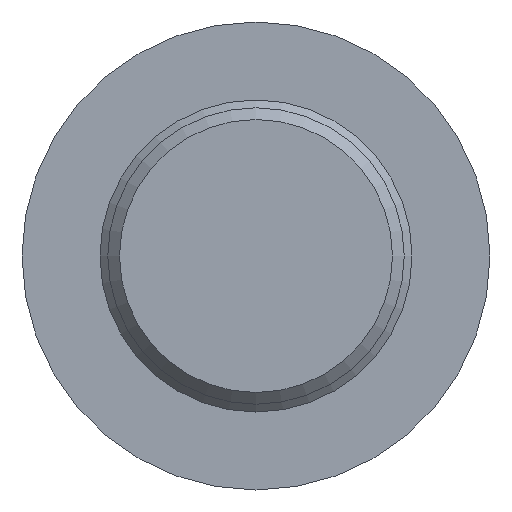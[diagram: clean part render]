
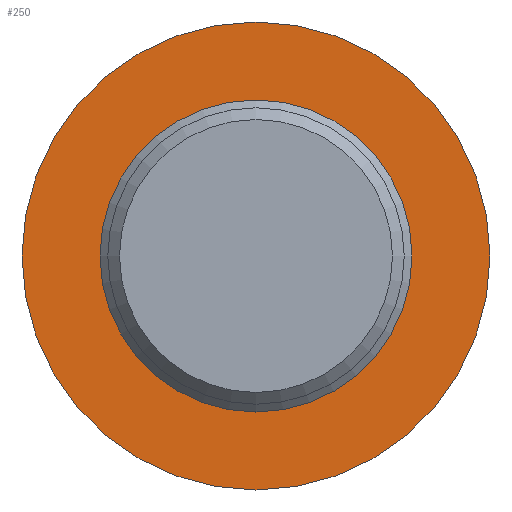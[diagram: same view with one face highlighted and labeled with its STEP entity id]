
A CAD part, front view. The second image highlights one B-rep face of the part: STEP entity #250.
In plain terms, the highlighted planar face has unit normal (0, -1, 0).
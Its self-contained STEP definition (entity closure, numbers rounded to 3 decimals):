
#17=FACE_BOUND('',#61,.T.);
#30=PLANE('',#303);
#43=FACE_OUTER_BOUND('',#60,.T.);
#60=EDGE_LOOP('',(#214,#215));
#61=EDGE_LOOP('',(#216,#217));
#100=CIRCLE('',#301,4.);
#101=CIRCLE('',#302,4.);
#102=CIRCLE('',#304,6.);
#103=CIRCLE('',#305,6.);
#126=VERTEX_POINT('',#456);
#127=VERTEX_POINT('',#457);
#128=VERTEX_POINT('',#462);
#129=VERTEX_POINT('',#463);
#157=EDGE_CURVE('',#126,#127,#100,.T.);
#158=EDGE_CURVE('',#127,#126,#101,.T.);
#160=EDGE_CURVE('',#128,#129,#102,.T.);
#161=EDGE_CURVE('',#129,#128,#103,.T.);
#214=ORIENTED_EDGE('',*,*,#160,.F.);
#215=ORIENTED_EDGE('',*,*,#161,.F.);
#216=ORIENTED_EDGE('',*,*,#157,.T.);
#217=ORIENTED_EDGE('',*,*,#158,.T.);
#250=ADVANCED_FACE('',(#43,#17),#30,.T.);
#301=AXIS2_PLACEMENT_3D('',#458,#375,#376);
#302=AXIS2_PLACEMENT_3D('',#459,#377,#378);
#303=AXIS2_PLACEMENT_3D('',#461,#380,#381);
#304=AXIS2_PLACEMENT_3D('',#464,#382,#383);
#305=AXIS2_PLACEMENT_3D('',#465,#384,#385);
#375=DIRECTION('center_axis',(0.,1.,0.));
#376=DIRECTION('ref_axis',(1.,0.,0.));
#377=DIRECTION('center_axis',(0.,1.,0.));
#378=DIRECTION('ref_axis',(1.,0.,0.));
#380=DIRECTION('center_axis',(0.,-1.,0.));
#381=DIRECTION('ref_axis',(0.,0.,-1.));
#382=DIRECTION('center_axis',(0.,1.,0.));
#383=DIRECTION('ref_axis',(1.,0.,0.));
#384=DIRECTION('center_axis',(0.,1.,0.));
#385=DIRECTION('ref_axis',(1.,0.,0.));
#456=CARTESIAN_POINT('',(0.,-790.,4.));
#457=CARTESIAN_POINT('',(0.,-790.,-4.));
#458=CARTESIAN_POINT('Origin',(0.,-790.,0.));
#459=CARTESIAN_POINT('Origin',(0.,-790.,0.));
#461=CARTESIAN_POINT('Origin',(0.,-790.,6.));
#462=CARTESIAN_POINT('',(0.,-790.,6.));
#463=CARTESIAN_POINT('',(0.,-790.,-6.));
#464=CARTESIAN_POINT('Origin',(0.,-790.,0.));
#465=CARTESIAN_POINT('Origin',(0.,-790.,0.));
